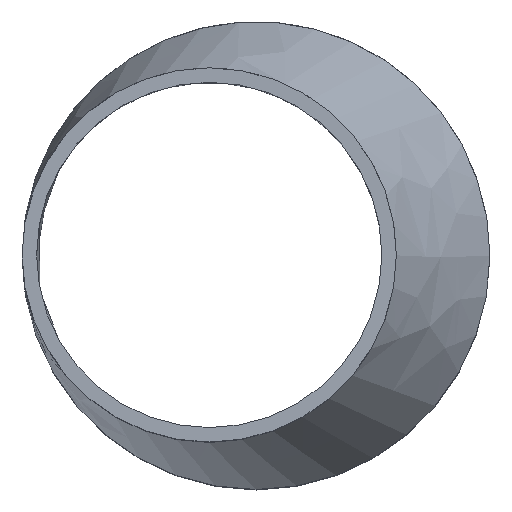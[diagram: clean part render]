
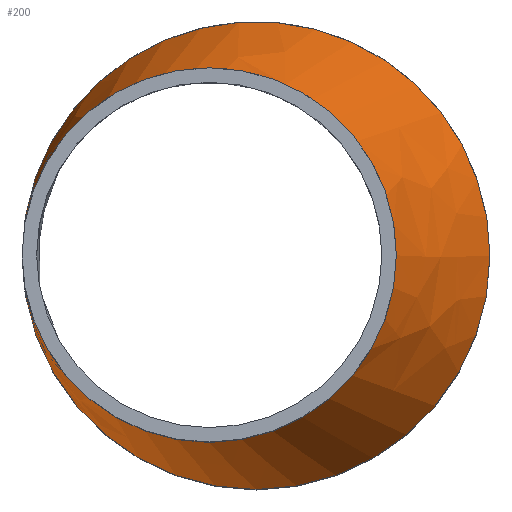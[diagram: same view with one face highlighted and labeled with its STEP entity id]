
A CAD part, top view. The second image highlights one B-rep face of the part: STEP entity #200.
In plain terms, the highlighted free-form (B-spline) face has degree [1, 2] with [2, 9] control points.
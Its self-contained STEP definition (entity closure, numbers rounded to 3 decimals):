
#15=B_SPLINE_CURVE_WITH_KNOTS($,1,(#381,#382),.UNSPECIFIED.,.F.,.F.,(2,
2),(-0.744,0.),.UNSPECIFIED.);
#17=(
BOUNDED_SURFACE()
B_SPLINE_SURFACE(1,2,((#359,#360,#361,#362,#363,#364,#365,#366,#367),(#368,
#369,#370,#371,#372,#373,#374,#375,#376)),.UNSPECIFIED.,.F.,.T.,.F.)
B_SPLINE_SURFACE_WITH_KNOTS((2,2),(3,2,2,2,3),(-0.29,0.949),
(-3.142,-1.571,0.,1.571,3.142),
 .UNSPECIFIED.)
GEOMETRIC_REPRESENTATION_ITEM()
RATIONAL_B_SPLINE_SURFACE(((1.,0.707,1.,0.707,1.,
0.707,1.,0.707,1.),(1.,0.707,1.,0.707,
1.,0.707,1.,0.707,1.)))
REPRESENTATION_ITEM($)
SURFACE()
);
#47=FACE_OUTER_BOUND($,#67,.T.);
#67=EDGE_LOOP($,(#157,#158,#159,#160,#161,#162));
#83=CIRCLE($,#221,100.);
#84=CIRCLE($,#222,100.);
#91=CIRCLE($,#231,80.);
#92=CIRCLE($,#232,80.);
#101=VERTEX_POINT($,#321);
#102=VERTEX_POINT($,#322);
#109=VERTEX_POINT($,#377);
#110=VERTEX_POINT($,#378);
#119=EDGE_CURVE($,#101,#102,#83,.T.);
#120=EDGE_CURVE($,#102,#101,#84,.T.);
#128=EDGE_CURVE($,#109,#110,#91,.T.);
#129=EDGE_CURVE($,#110,#109,#92,.T.);
#130=EDGE_CURVE($,#110,#102,#15,.T.);
#157=ORIENTED_EDGE($,*,*,#128,.F.);
#158=ORIENTED_EDGE($,*,*,#129,.F.);
#159=ORIENTED_EDGE($,*,*,#130,.T.);
#160=ORIENTED_EDGE($,*,*,#119,.F.);
#161=ORIENTED_EDGE($,*,*,#120,.F.);
#162=ORIENTED_EDGE($,*,*,#130,.F.);
#200=ADVANCED_FACE($,(#47),#17,.F.);
#221=AXIS2_PLACEMENT_3D($,#323,#266,#267);
#222=AXIS2_PLACEMENT_3D($,#324,#268,#269);
#231=AXIS2_PLACEMENT_3D($,#379,#286,#287);
#232=AXIS2_PLACEMENT_3D($,#380,#288,#289);
#266=DIRECTION('center_axis',(0.,0.,-1.));
#267=DIRECTION('ref_axis',(-1.,0.,0.));
#268=DIRECTION('center_axis',(0.,0.,-1.));
#269=DIRECTION('ref_axis',(-1.,0.,0.));
#286=DIRECTION('center_axis',(0.,0.,1.));
#287=DIRECTION('ref_axis',(-1.,0.,0.));
#288=DIRECTION('center_axis',(0.,0.,1.));
#289=DIRECTION('ref_axis',(-1.,0.,0.));
#321=CARTESIAN_POINT('',(100.,0.,115.));
#322=CARTESIAN_POINT('',(-7.231,99.738,115.));
#323=CARTESIAN_POINT('Origin',(0.,0.,115.));
#324=CARTESIAN_POINT('Origin',(0.,0.,115.));
#359=CARTESIAN_POINT('Ctrl Pts',(0.,107.512,
88.11));
#360=CARTESIAN_POINT('Ctrl Pts',(-100.,107.512,61.221));
#361=CARTESIAN_POINT('Ctrl Pts',(-100.,0.,61.221));
#362=CARTESIAN_POINT('Ctrl Pts',(-100.,-107.512,61.221));
#363=CARTESIAN_POINT('Ctrl Pts',(0.,-107.512,
88.11));
#364=CARTESIAN_POINT('Ctrl Pts',(100.,-107.512,115.));
#365=CARTESIAN_POINT('Ctrl Pts',(100.,0.,115.));
#366=CARTESIAN_POINT('Ctrl Pts',(100.,107.512,115.));
#367=CARTESIAN_POINT('Ctrl Pts',(0.,107.512,
88.11));
#368=CARTESIAN_POINT('Ctrl Pts',(-30.893,74.299,202.997));
#369=CARTESIAN_POINT('Ctrl Pts',(-100.,74.299,184.414));
#370=CARTESIAN_POINT('Ctrl Pts',(-100.,0.,184.414));
#371=CARTESIAN_POINT('Ctrl Pts',(-100.,-74.299,184.414));
#372=CARTESIAN_POINT('Ctrl Pts',(-30.893,-74.299,202.997));
#373=CARTESIAN_POINT('Ctrl Pts',(38.215,-74.299,221.579));
#374=CARTESIAN_POINT('Ctrl Pts',(38.215,0.,
221.579));
#375=CARTESIAN_POINT('Ctrl Pts',(38.215,74.299,221.579));
#376=CARTESIAN_POINT('Ctrl Pts',(-30.893,74.299,202.997));
#377=CARTESIAN_POINT('',(60.,0.,184.));
#378=CARTESIAN_POINT('',(-25.784,79.791,184.));
#379=CARTESIAN_POINT('Origin',(-20.,0.,184.));
#380=CARTESIAN_POINT('Origin',(-20.,0.,184.));
#381=CARTESIAN_POINT('Ctrl Pts',(-25.784,79.791,184.));
#382=CARTESIAN_POINT('Ctrl Pts',(-7.231,99.738,115.));
